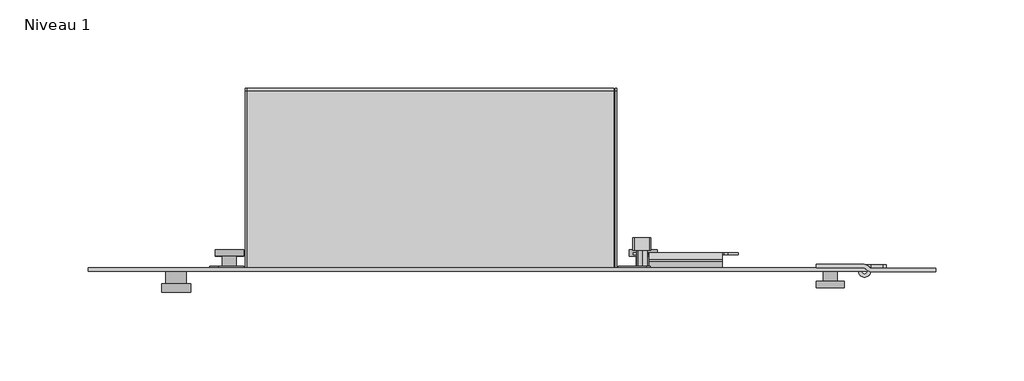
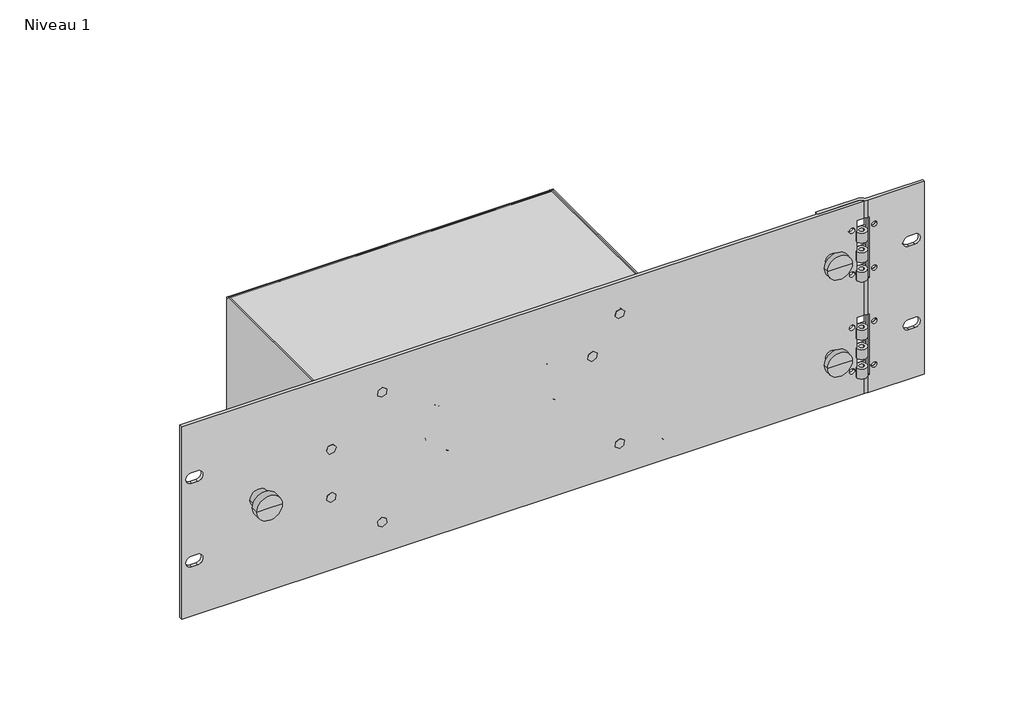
# One storey: 1 proxy.
"""IFC4 building model written with IfcOpenShell, lengths in millimetres."""

from ifc_helpers import new_model, si_unit, origin, place, context, project, spatial, transform, mapped, element, save
from components import electrical_equipment_b192b03c, electrical_equipment_e9eb0355

model = new_model("IFC4")

# Units and contexts
model_context = context("Model", 3, world=origin())
ifc_project = project(units=[si_unit("LENGTHUNIT", "METRE", prefix="MILLI")], contexts=[model_context])

# Site, building, storey
site = spatial("IfcSite", under=ifc_project)
building = spatial("IfcBuilding", under=site)
storey = spatial("IfcBuildingStorey", under=building, Name="Niveau 1", Elevation=0.0)

# Proxy
placement = place(None, origin())
electrical_equipment_shape = electrical_equipment_b192b03c(model_context)
electrical_equipment_2_shape = electrical_equipment_e9eb0355(model_context)
element("IfcBuildingElementProxy", 1, Name="AES 24V 6A F3U : AES 24V 6A F3U", ObjectType="AES 24V 6A F3U : AES 24V 6A F3U", at=placement, inside=storey, context=model_context, shape_type="MappedRepresentation", body=[
    mapped(electrical_equipment_shape, transform((-6254.8844245, 1230.9844204, 0.0), x_axis=(1.0, 0.0, 0.0), y_axis=(0.0, 1.0, 0.0), z_axis=(0.0, 0.0, 1.0))),
    mapped(electrical_equipment_2_shape, transform((-6254.8844245, 1230.9844204, 0.0), x_axis=(1.0, 0.0, 0.0), y_axis=(0.0, 1.0, 0.0), z_axis=(0.0, 0.0, 1.0))),
])

save(model, "model.ifc")
